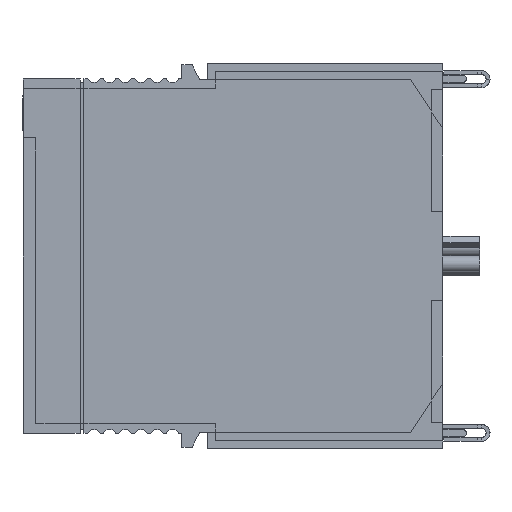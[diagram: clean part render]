
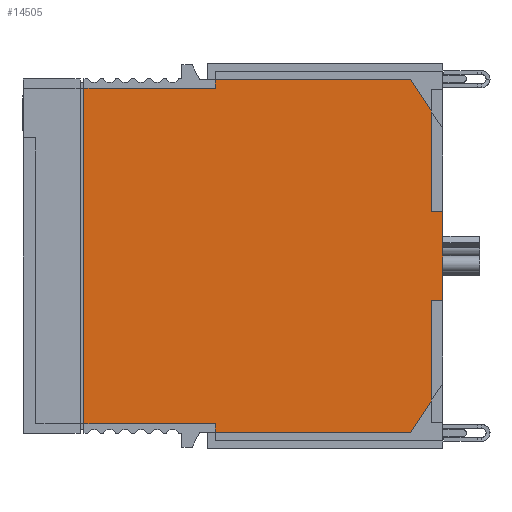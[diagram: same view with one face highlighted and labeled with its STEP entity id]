
A CAD part, left-side view. The second image highlights one B-rep face of the part: STEP entity #14505.
In plain terms, the highlighted planar face has unit normal (-1, 0, 0) as drawn and (0, -1, 0) by its records, which use the part's own axes.
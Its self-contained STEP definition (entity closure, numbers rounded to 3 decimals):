
#421 = CARTESIAN_POINT ( 'NONE',  ( 21.3, 0., -19.05 ) ) ;
#922 = LINE ( 'NONE', #12782, #2482 ) ;
#1248 = CARTESIAN_POINT ( 'NONE',  ( -18.3, 0., 25.15 ) ) ;
#1250 = LINE ( 'NONE', #10916, #13287 ) ;
#1264 = EDGE_CURVE ( 'NONE', #13726, #5166, #9719, .T. ) ;
#1493 = ORIENTED_EDGE ( 'NONE', *, *, #16327, .F. ) ;
#1669 = LINE ( 'NONE', #10083, #9045 ) ;
#1893 = CARTESIAN_POINT ( 'NONE',  ( 5.65, 0., 25.15 ) ) ;
#2168 = EDGE_CURVE ( 'NONE', #13726, #13155, #1669, .T. ) ;
#2224 = VECTOR ( 'NONE', #11462, 1000. ) ;
#2482 = VECTOR ( 'NONE', #14181, 1000. ) ;
#2726 = CARTESIAN_POINT ( 'NONE',  ( -21.3, 0., -2.35 ) ) ;
#2869 = ORIENTED_EDGE ( 'NONE', *, *, #10972, .F. ) ;
#2993 = CARTESIAN_POINT ( 'NONE',  ( 5.65, 0., 26.55 ) ) ;
#3202 = DIRECTION ( 'NONE',  ( 0., 0., -1. ) ) ;
#3414 = VERTEX_POINT ( 'NONE', #6759 ) ;
#3900 = PLANE ( 'NONE',  #6117 ) ;
#3975 = VERTEX_POINT ( 'NONE', #7030 ) ;
#4392 = CARTESIAN_POINT ( 'NONE',  ( 22.4, 0., 22.45 ) ) ;
#4603 = VERTEX_POINT ( 'NONE', #1248 ) ;
#4671 = EDGE_CURVE ( 'NONE', #5384, #8497, #18037, .T. ) ;
#5089 = CARTESIAN_POINT ( 'NONE',  ( -21.3, 0., -19.05 ) ) ;
#5166 = VERTEX_POINT ( 'NONE', #16789 ) ;
#5293 = EDGE_LOOP ( 'NONE', ( #2869, #15253, #7681, #11847, #14440, #9525, #9259, #11353, #13152, #9990, #15314, #1493, #17979, #17460 ) ) ;
#5384 = VERTEX_POINT ( 'NONE', #1893 ) ;
#5544 = EDGE_CURVE ( 'NONE', #4603, #6703, #13965, .T. ) ;
#5796 = DIRECTION ( 'NONE',  ( 0., 0., -1. ) ) ;
#6108 = CARTESIAN_POINT ( 'NONE',  ( -5.65, 0., 25.15 ) ) ;
#6117 = AXIS2_PLACEMENT_3D ( 'NONE', #12549, #14024, #11050 ) ;
#6140 = CARTESIAN_POINT ( 'NONE',  ( 22.4, 0., -2.35 ) ) ;
#6307 = DIRECTION ( 'NONE',  ( 0., 0., 1. ) ) ;
#6482 = VERTEX_POINT ( 'NONE', #6140 ) ;
#6703 = VERTEX_POINT ( 'NONE', #15133 ) ;
#6708 = LINE ( 'NONE', #10053, #18042 ) ;
#6759 = CARTESIAN_POINT ( 'NONE',  ( -5.65, 0., 26.55 ) ) ;
#7004 = LINE ( 'NONE', #14743, #8768 ) ;
#7030 = CARTESIAN_POINT ( 'NONE',  ( 21.3, 0., -2.35 ) ) ;
#7208 = EDGE_CURVE ( 'NONE', #17017, #3414, #922, .T. ) ;
#7681 = ORIENTED_EDGE ( 'NONE', *, *, #18390, .F. ) ;
#7883 = VERTEX_POINT ( 'NONE', #421 ) ;
#8080 = CARTESIAN_POINT ( 'NONE',  ( 18.3, 0., 25.15 ) ) ;
#8148 = LINE ( 'NONE', #9823, #16837 ) ;
#8497 = VERTEX_POINT ( 'NONE', #8080 ) ;
#8768 = VECTOR ( 'NONE', #16196, 1000. ) ;
#8878 = CARTESIAN_POINT ( 'NONE',  ( 21.3, 0., -25.15 ) ) ;
#9045 = VECTOR ( 'NONE', #12761, 1000. ) ;
#9259 = ORIENTED_EDGE ( 'NONE', *, *, #4671, .F. ) ;
#9525 = ORIENTED_EDGE ( 'NONE', *, *, #18076, .F. ) ;
#9580 = DIRECTION ( 'NONE',  ( -1., 0., 0. ) ) ;
#9719 = LINE ( 'NONE', #11975, #11028 ) ;
#9823 = CARTESIAN_POINT ( 'NONE',  ( 22.4, 0., 22.45 ) ) ;
#9863 = DIRECTION ( 'NONE',  ( 1., 0., 0. ) ) ;
#9971 = VECTOR ( 'NONE', #15089, 1000. ) ;
#9972 = CARTESIAN_POINT ( 'NONE',  ( -21.3, 0., 25.15 ) ) ;
#9990 = ORIENTED_EDGE ( 'NONE', *, *, #11771, .T. ) ;
#10053 = CARTESIAN_POINT ( 'NONE',  ( 22.4, 0., -2.35 ) ) ;
#10083 = CARTESIAN_POINT ( 'NONE',  ( -21.3, 0., -2.35 ) ) ;
#10165 = CARTESIAN_POINT ( 'NONE',  ( -21.3, 0., -19.05 ) ) ;
#10318 = CARTESIAN_POINT ( 'NONE',  ( -22.4, 0., -2.35 ) ) ;
#10406 = DIRECTION ( 'NONE',  ( 0., 0., -1. ) ) ;
#10415 = VECTOR ( 'NONE', #9580, 1000. ) ;
#10551 = VECTOR ( 'NONE', #10406, 1000. ) ;
#10692 = EDGE_CURVE ( 'NONE', #7883, #13070, #16865, .T. ) ;
#10816 = LINE ( 'NONE', #8878, #11025 ) ;
#10916 = CARTESIAN_POINT ( 'NONE',  ( -21.3, 0., -25.15 ) ) ;
#10972 = EDGE_CURVE ( 'NONE', #13070, #13155, #1250, .T. ) ;
#11025 = VECTOR ( 'NONE', #3202, 1000. ) ;
#11028 = VECTOR ( 'NONE', #6307, 1000. ) ;
#11050 = DIRECTION ( 'NONE',  ( 0., 0., 1. ) ) ;
#11353 = ORIENTED_EDGE ( 'NONE', *, *, #15774, .T. ) ;
#11462 = DIRECTION ( 'NONE',  ( 1., 0., 0. ) ) ;
#11534 = VECTOR ( 'NONE', #9863, 1000. ) ;
#11771 = EDGE_CURVE ( 'NONE', #3414, #6703, #16781, .T. ) ;
#11847 = ORIENTED_EDGE ( 'NONE', *, *, #17359, .T. ) ;
#11975 = CARTESIAN_POINT ( 'NONE',  ( -22.4, 0., -2.35 ) ) ;
#12404 = LINE ( 'NONE', #16415, #9971 ) ;
#12549 = CARTESIAN_POINT ( 'NONE',  ( 0., 0., 0. ) ) ;
#12581 = CARTESIAN_POINT ( 'NONE',  ( -22.4, 0., 22.45 ) ) ;
#12761 = DIRECTION ( 'NONE',  ( 1., 0., 0. ) ) ;
#12782 = CARTESIAN_POINT ( 'NONE',  ( -5.65, 0., 26.55 ) ) ;
#13070 = VERTEX_POINT ( 'NONE', #10165 ) ;
#13152 = ORIENTED_EDGE ( 'NONE', *, *, #7208, .T. ) ;
#13155 = VERTEX_POINT ( 'NONE', #2726 ) ;
#13287 = VECTOR ( 'NONE', #16388, 1000. ) ;
#13441 = FACE_OUTER_BOUND ( 'NONE', #5293, .T. ) ;
#13726 = VERTEX_POINT ( 'NONE', #10318 ) ;
#13784 = LINE ( 'NONE', #12581, #14229 ) ;
#13965 = LINE ( 'NONE', #9972, #11534 ) ;
#14024 = DIRECTION ( 'NONE',  ( 0., 1., 0. ) ) ;
#14181 = DIRECTION ( 'NONE',  ( -1., 0., 0. ) ) ;
#14229 = VECTOR ( 'NONE', #15949, 1000. ) ;
#14359 = CARTESIAN_POINT ( 'NONE',  ( -21.3, 0., 25.15 ) ) ;
#14440 = ORIENTED_EDGE ( 'NONE', *, *, #16400, .F. ) ;
#14505 = ADVANCED_FACE ( 'NONE', ( #13441 ), #3900, .F. ) ;
#14743 = CARTESIAN_POINT ( 'NONE',  ( 5.65, 0., 25.15 ) ) ;
#15089 = DIRECTION ( 'NONE',  ( 1., 0., 0. ) ) ;
#15133 = CARTESIAN_POINT ( 'NONE',  ( -5.65, 0., 25.15 ) ) ;
#15253 = ORIENTED_EDGE ( 'NONE', *, *, #10692, .F. ) ;
#15314 = ORIENTED_EDGE ( 'NONE', *, *, #5544, .F. ) ;
#15774 = EDGE_CURVE ( 'NONE', #5384, #17017, #7004, .T. ) ;
#15949 = DIRECTION ( 'NONE',  ( 0.835, 0., 0.55 ) ) ;
#16196 = DIRECTION ( 'NONE',  ( 0., 0., 1. ) ) ;
#16327 = EDGE_CURVE ( 'NONE', #5166, #4603, #13784, .T. ) ;
#16384 = VERTEX_POINT ( 'NONE', #4392 ) ;
#16388 = DIRECTION ( 'NONE',  ( 0., 0., 1. ) ) ;
#16400 = EDGE_CURVE ( 'NONE', #16384, #6482, #6708, .T. ) ;
#16415 = CARTESIAN_POINT ( 'NONE',  ( 21.3, 0., -2.35 ) ) ;
#16781 = LINE ( 'NONE', #6108, #10551 ) ;
#16789 = CARTESIAN_POINT ( 'NONE',  ( -22.4, 0., 22.45 ) ) ;
#16837 = VECTOR ( 'NONE', #18086, 1000. ) ;
#16865 = LINE ( 'NONE', #5089, #10415 ) ;
#17017 = VERTEX_POINT ( 'NONE', #2993 ) ;
#17359 = EDGE_CURVE ( 'NONE', #3975, #6482, #12404, .T. ) ;
#17460 = ORIENTED_EDGE ( 'NONE', *, *, #2168, .T. ) ;
#17979 = ORIENTED_EDGE ( 'NONE', *, *, #1264, .F. ) ;
#18037 = LINE ( 'NONE', #14359, #2224 ) ;
#18042 = VECTOR ( 'NONE', #5796, 1000. ) ;
#18076 = EDGE_CURVE ( 'NONE', #8497, #16384, #8148, .T. ) ;
#18086 = DIRECTION ( 'NONE',  ( 0.835, 0., -0.55 ) ) ;
#18390 = EDGE_CURVE ( 'NONE', #3975, #7883, #10816, .T. ) ;
